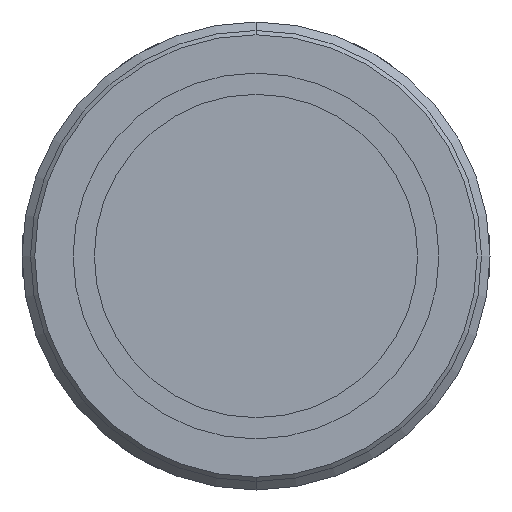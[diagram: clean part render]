
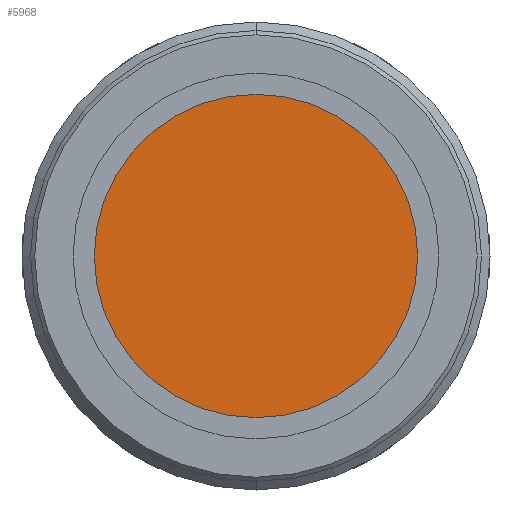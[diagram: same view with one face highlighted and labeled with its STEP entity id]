
A CAD part, front view. The second image highlights one B-rep face of the part: STEP entity #5968.
In plain terms, the highlighted planar face has unit normal (0, -1, 0).
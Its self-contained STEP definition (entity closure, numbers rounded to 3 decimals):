
#85 = CARTESIAN_POINT ( 'NONE',  ( 0., -16.399, 19. ) ) ;
#523 = DIRECTION ( 'NONE',  ( 0., 1., 0. ) ) ;
#836 = CIRCLE ( 'NONE', #7443, 19. ) ;
#900 = FACE_OUTER_BOUND ( 'NONE', #7994, .T. ) ;
#1708 = VERTEX_POINT ( 'NONE', #85 ) ;
#3045 = ORIENTED_EDGE ( 'NONE', *, *, #13527, .T. ) ;
#4168 = DIRECTION ( 'NONE',  ( 0., -1., 0. ) ) ;
#5395 = VERTEX_POINT ( 'NONE', #12795 ) ;
#5685 = DIRECTION ( 'NONE',  ( 0., -1., 0. ) ) ;
#5968 = ADVANCED_FACE ( 'NONE', ( #900 ), #13051, .F. ) ;
#6060 = ORIENTED_EDGE ( 'NONE', *, *, #12521, .T. ) ;
#7443 = AXIS2_PLACEMENT_3D ( 'NONE', #11964, #5685, #13010 ) ;
#7619 = AXIS2_PLACEMENT_3D ( 'NONE', #10426, #4168, #11509 ) ;
#7864 = DIRECTION ( 'NONE',  ( 0., 0., 1. ) ) ;
#7994 = EDGE_LOOP ( 'NONE', ( #6060, #3045 ) ) ;
#8830 = CIRCLE ( 'NONE', #7619, 19. ) ;
#10426 = CARTESIAN_POINT ( 'NONE',  ( 0., -16.399, 0. ) ) ;
#10940 = CARTESIAN_POINT ( 'NONE',  ( -19., -16.399, 0. ) ) ;
#11509 = DIRECTION ( 'NONE',  ( 0., 0., -1. ) ) ;
#11964 = CARTESIAN_POINT ( 'NONE',  ( 0., -16.399, 0. ) ) ;
#12521 = EDGE_CURVE ( 'NONE', #5395, #1708, #836, .T. ) ;
#12795 = CARTESIAN_POINT ( 'NONE',  ( 0., -16.399, -19. ) ) ;
#13010 = DIRECTION ( 'NONE',  ( 0., 0., -1. ) ) ;
#13051 = PLANE ( 'NONE',  #13358 ) ;
#13358 = AXIS2_PLACEMENT_3D ( 'NONE', #10940, #523, #7864 ) ;
#13527 = EDGE_CURVE ( 'NONE', #1708, #5395, #8830, .T. ) ;
